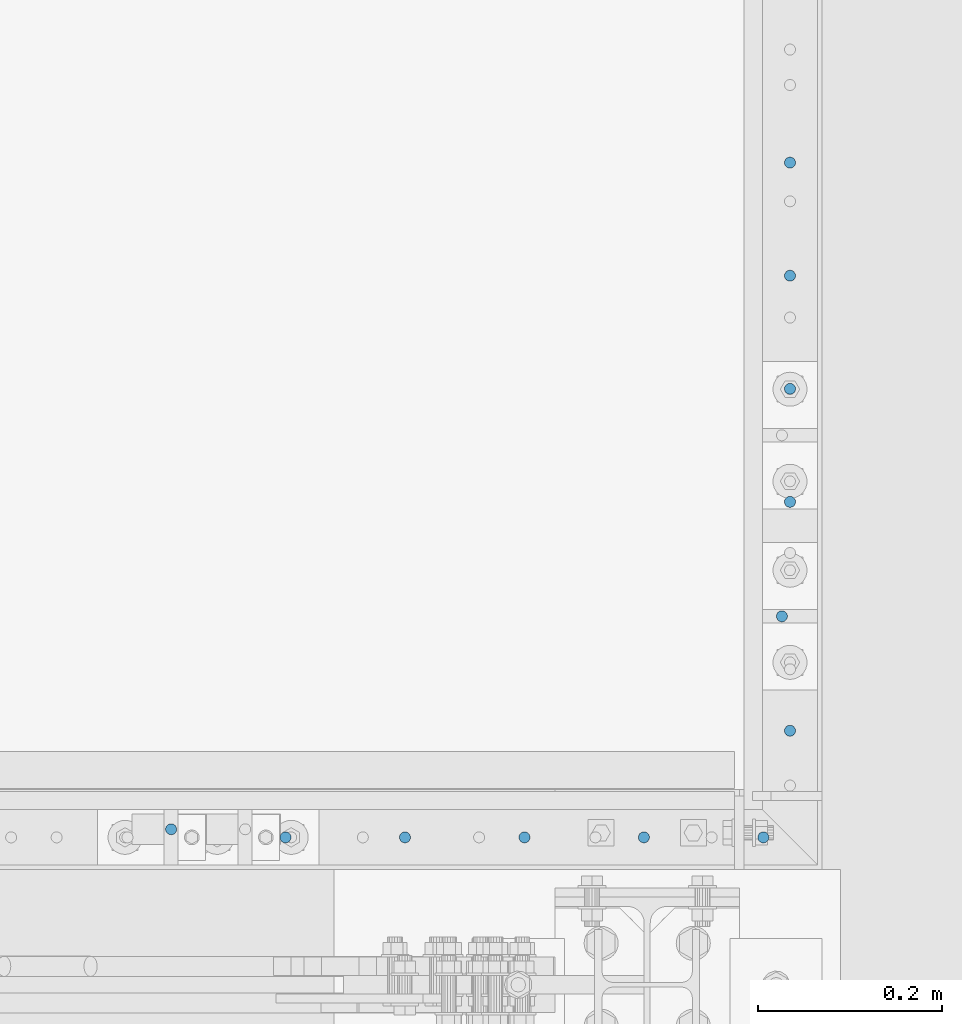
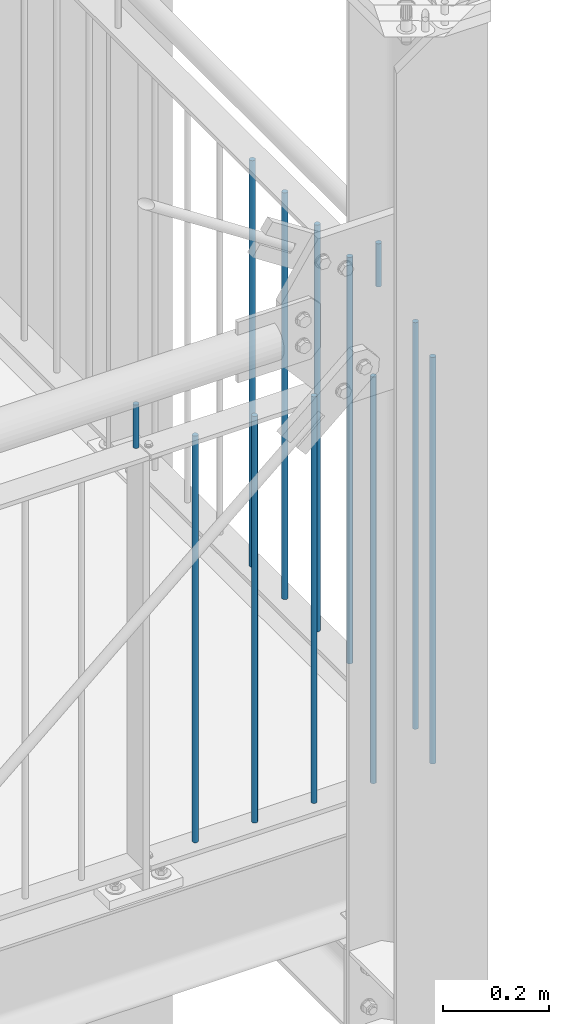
# One storey, part 90 of 831: 12 columns.
"""IFC2X3 building model written with IfcOpenShell, lengths in millimetres."""

from ifc_helpers import new_model, entity, si_unit, converted_unit, frame, origin, origin_with_axes, origin_2d, place, context, project, spatial, circle, extrude, clip, halfspace, material, element, save


model = new_model("IFC2X3")

# Units and contexts
model_context = context("Model", 3, precision=1e-09, world=origin_with_axes())
ifc_project = project(units=[si_unit("LENGTHUNIT", "METRE", prefix="MILLI"), si_unit("AREAUNIT", "SQUARE_METRE"), si_unit("VOLUMEUNIT", "CUBIC_METRE"), converted_unit("PLANEANGLEUNIT", "DEGREE", entity("IfcPlaneAngleMeasure", 0.01745329), si_unit("PLANEANGLEUNIT", "RADIAN"), dimensions=[0, 0, 0, 0, 0, 0, 0])], contexts=[model_context])

# Site, building, storey
site_placement = place(None, origin_with_axes())
site = spatial("IfcSite", under=ifc_project, at=site_placement, Name="Site", CompositionType="ELEMENT")
building_placement = place(site_placement, origin_with_axes())
building = spatial("IfcBuilding", under=site, at=building_placement, Name="Struktur 1", CompositionType="ELEMENT")
storey_placement = place(building_placement, origin_with_axes())
storey = spatial("IfcBuildingStorey", under=building, at=storey_placement, Name="Default Storey", CompositionType="ELEMENT", Elevation=0.0)

# Columns
ifc_material = material(Name="S235JR")
column_1_placement = place(None, frame((9021.713402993, 5259.236043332, 6697.180018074), z_axis=(0.0, 0.0, 1.0), x_axis=(0.0, -1.0, 0.0)))
element("IfcColumn", 1, at=column_1_placement, inside=storey, material=ifc_material, Name="Railing_Picket_Landing#45", ObjectType="Railing_Picket_Landing#45", context=model_context, shape_type="Clipping", body=[
    clip(clip(extrude(circle(Radius=6.0, at=origin_2d()), origin(), (0.0, 0.0, -1.0), 965.770562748), halfspace(frame((5259.236043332, -9021.713402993, -13.486281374), z_axis=(0.0, 0.0, -1.0), x_axis=(0.0, -1.0, 0.0)), True)), halfspace(frame((5259.236043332, -9021.713402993, -952.284281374), z_axis=(0.0, 0.0, 1.0), x_axis=(0.0, 1.0, 0.0)), True)),
])
column_2_placement = place(None, frame((9021.713402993, 5136.486019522, 6697.180018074), z_axis=(0.0, 0.0, 1.0), x_axis=(0.0, -1.0, 0.0)))
element("IfcColumn", 2, at=column_2_placement, inside=storey, material=ifc_material, Name="Railing_Picket_Landing#46", ObjectType="Railing_Picket_Landing#46", context=model_context, shape_type="Clipping", body=[
    clip(clip(extrude(circle(Radius=6.0, at=origin_2d()), origin(), (0.0, 0.0, -1.0), 965.770562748), halfspace(frame((5136.486019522, -9021.713402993, -13.486281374), z_axis=(0.0, 0.0, -1.0), x_axis=(0.0, -1.0, 0.0)), True)), halfspace(frame((5136.486019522, -9021.713402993, -952.284281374), z_axis=(0.0, 0.0, 1.0), x_axis=(0.0, 1.0, 0.0)), True)),
])
column_3_placement = place(None, frame((9021.713402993, 5013.735995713, 6697.180018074), z_axis=(0.0, 0.0, 1.0), x_axis=(0.0, -1.0, 0.0)))
element("IfcColumn", 3, at=column_3_placement, inside=storey, material=ifc_material, Name="Railing_Picket_Landing#47", ObjectType="Railing_Picket_Landing#47", context=model_context, shape_type="Clipping", body=[
    clip(clip(extrude(circle(Radius=6.0, at=origin_2d()), origin(), (0.0, 0.0, -1.0), 965.770562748), halfspace(frame((5013.735995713, -9021.713402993, -13.486281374), z_axis=(0.0, 0.0, -1.0), x_axis=(0.0, -1.0, 0.0)), True)), halfspace(frame((5013.735995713, -9021.713402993, -952.284281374), z_axis=(0.0, 0.0, 1.0), x_axis=(0.0, 1.0, 0.0)), True)),
])
column_4_placement = place(None, frame((9021.713402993, 4890.985971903, 6697.180018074), z_axis=(0.0, 0.0, 1.0), x_axis=(0.0, -1.0, 0.0)))
element("IfcColumn", 4, at=column_4_placement, inside=storey, material=ifc_material, Name="Railing_Picket_Landing#48", ObjectType="Railing_Picket_Landing#48", context=model_context, shape_type="Clipping", body=[
    clip(clip(extrude(circle(Radius=6.0, at=origin_2d()), origin(), (0.0, 0.0, -1.0), 965.770562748), halfspace(frame((4890.985971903, -9021.713402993, -13.486281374), z_axis=(0.0, 0.0, -1.0), x_axis=(0.0, -1.0, 0.0)), True)), halfspace(frame((4890.985971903, -9021.713402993, -952.284281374), z_axis=(0.0, 0.0, 1.0), x_axis=(0.0, 1.0, 0.0)), True)),
])
column_5_placement = place(None, frame((9021.713402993, 4642.485971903, 6697.180018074), z_axis=(0.0, 0.0, 1.0), x_axis=(0.0, -1.0, 0.0)))
element("IfcColumn", 5, at=column_5_placement, inside=storey, material=ifc_material, Name="Railing_Picket_Landing#49", ObjectType="Railing_Picket_Landing#49", context=model_context, shape_type="Clipping", body=[
    clip(clip(extrude(circle(Radius=6.0, at=origin_2d()), origin(), (0.0, 0.0, -1.0), 965.770562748), halfspace(frame((4642.485971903, -9021.713402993, -13.486281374), z_axis=(0.0, 0.0, -1.0), x_axis=(0.0, -1.0, 0.0)), True)), halfspace(frame((4642.485971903, -9021.713402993, -952.284281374), z_axis=(0.0, 0.0, 1.0), x_axis=(0.0, 1.0, 0.0)), True)),
])
column_6_placement = place(None, frame((8992.778374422, 4526.736971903, 6697.180018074), z_axis=(0.0, 0.0, 1.0), x_axis=(-1.0, 0.0, 0.0)))
element("IfcColumn", 6, at=column_6_placement, inside=storey, material=ifc_material, Name="Railing_Picket_Landing#50", ObjectType="Railing_Picket_Landing#50", context=model_context, shape_type="Clipping", body=[
    clip(clip(extrude(circle(Radius=6.0, at=origin_2d()), origin(), (0.0, 0.0, -1.0), 965.770562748), halfspace(frame((8992.778374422, 4526.736971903, -13.486281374), z_axis=(0.0, 0.0, -1.0), x_axis=(1.0, 0.0, 0.0)), True)), halfspace(frame((8992.778374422, 4526.736971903, -952.284281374), z_axis=(0.0, 0.0, 1.0), x_axis=(-1.0, 0.0, 0.0)), True)),
])
column_7_placement = place(None, frame((8863.09434585, 4526.736971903, 6697.180018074), z_axis=(0.0, 0.0, 1.0), x_axis=(-1.0, 0.0, 0.0)))
element("IfcColumn", 7, at=column_7_placement, inside=storey, material=ifc_material, Name="Railing_Picket_Landing#51", ObjectType="Railing_Picket_Landing#51", context=model_context, shape_type="Clipping", body=[
    clip(clip(extrude(circle(Radius=6.0, at=origin_2d()), origin(), (0.0, 0.0, -1.0), 965.770562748), halfspace(frame((8863.09434585, 4526.736971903, -13.486281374), z_axis=(0.0, 0.0, -1.0), x_axis=(1.0, 0.0, 0.0)), True)), halfspace(frame((8863.09434585, 4526.736971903, -952.284281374), z_axis=(0.0, 0.0, 1.0), x_axis=(-1.0, 0.0, 0.0)), True)),
])
column_8_placement = place(None, frame((8733.410317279, 4526.736971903, 6697.180018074), z_axis=(0.0, 0.0, 1.0), x_axis=(-1.0, 0.0, 0.0)))
element("IfcColumn", 8, at=column_8_placement, inside=storey, material=ifc_material, Name="Railing_Picket_Landing#52", ObjectType="Railing_Picket_Landing#52", context=model_context, shape_type="Clipping", body=[
    clip(clip(extrude(circle(Radius=6.0, at=origin_2d()), origin(), (0.0, 0.0, -1.0), 965.770562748), halfspace(frame((8733.410317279, 4526.736971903, -13.486281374), z_axis=(0.0, 0.0, -1.0), x_axis=(1.0, 0.0, 0.0)), True)), halfspace(frame((8733.410317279, 4526.736971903, -952.284281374), z_axis=(0.0, 0.0, 1.0), x_axis=(-1.0, 0.0, 0.0)), True)),
])
column_9_placement = place(None, frame((8603.726288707, 4526.736971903, 6697.180018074), z_axis=(0.0, 0.0, 1.0), x_axis=(-1.0, 0.0, 0.0)))
element("IfcColumn", 9, at=column_9_placement, inside=storey, material=ifc_material, Name="Railing_Picket_Landing#53", ObjectType="Railing_Picket_Landing#53", context=model_context, shape_type="Clipping", body=[
    clip(clip(extrude(circle(Radius=6.0, at=origin_2d()), origin(), (0.0, 0.0, -1.0), 965.770562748), halfspace(frame((8603.726288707, 4526.736971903, -13.486281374), z_axis=(0.0, 0.0, -1.0), x_axis=(1.0, 0.0, 0.0)), True)), halfspace(frame((8603.726288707, 4526.736971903, -952.284281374), z_axis=(0.0, 0.0, 1.0), x_axis=(-1.0, 0.0, 0.0)), True)),
])
column_10_placement = place(None, frame((8474.042260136, 4526.736971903, 6697.180018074), z_axis=(0.0, 0.0, 1.0), x_axis=(-1.0, 0.0, 0.0)))
element("IfcColumn", 10, at=column_10_placement, inside=storey, material=ifc_material, Name="Railing_Picket_Landing#54", ObjectType="Railing_Picket_Landing#54", context=model_context, shape_type="Clipping", body=[
    clip(clip(extrude(circle(Radius=6.0, at=origin_2d()), origin(), (0.0, 0.0, -1.0), 965.770562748), halfspace(frame((8474.042260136, 4526.736971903, -13.486281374), z_axis=(0.0, 0.0, -1.0), x_axis=(1.0, 0.0, 0.0)), True)), halfspace(frame((8474.042260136, 4526.736971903, -952.284281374), z_axis=(0.0, 0.0, 1.0), x_axis=(-1.0, 0.0, 0.0)), True)),
])
column_11_placement = place(None, frame((9012.913402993, 4766.735971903, 6802.180018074), z_axis=(0.0, 0.0, 1.0), x_axis=(-1.0, 0.0, 0.0)))
element("IfcColumn", 11, at=column_11_placement, inside=storey, material=ifc_material, Name="Bar#7", ObjectType="Bar#7", context=model_context, shape_type="Clipping", body=[
    clip(clip(extrude(circle(Radius=6.0, at=origin_2d()), origin(), (0.0, 0.0, -1.0), 116.970562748), halfspace(frame((9012.913402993, 4766.735971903, -8.486281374), z_axis=(0.0, 0.0, -1.0), x_axis=(1.0, 0.0, 0.0)), True)), halfspace(frame((9012.913402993, 4766.735971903, -108.484281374), z_axis=(0.0, 0.0, 1.0), x_axis=(-1.0, 0.0, 0.0)), True)),
])
column_12_placement = place(None, frame((8349.792260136, 4535.536971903, 6802.180018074), z_axis=(0.0, 0.0, 1.0), x_axis=(0.0, 1.0, 0.0)))
element("IfcColumn", 12, at=column_12_placement, inside=storey, material=ifc_material, Name="Bar#8", ObjectType="Bar#8", context=model_context, shape_type="Clipping", body=[
    clip(clip(extrude(circle(Radius=6.0, at=origin_2d()), origin(), (0.0, 0.0, -1.0), 116.970562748), halfspace(frame((-4535.536971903, 8349.792260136, -8.486281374), z_axis=(0.0, 0.0, -1.0), x_axis=(0.0, 1.0, 0.0)), True)), halfspace(frame((-4535.536971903, 8349.792260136, -108.484281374), z_axis=(0.0, 0.0, 1.0), x_axis=(0.0, -1.0, 0.0)), True)),
])

save(model, "model.ifc")
